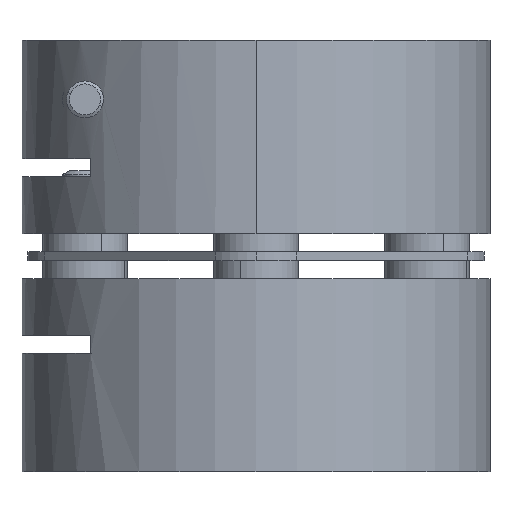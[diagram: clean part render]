
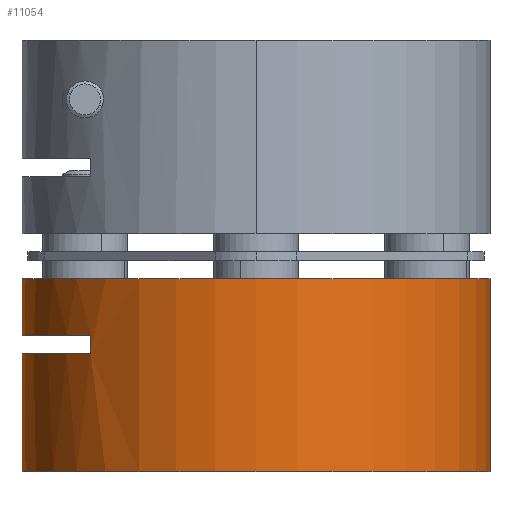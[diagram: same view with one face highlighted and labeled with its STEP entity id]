
A CAD part, left-side view. The second image highlights one B-rep face of the part: STEP entity #11054.
In plain terms, the highlighted cylindrical face has radius 13 mm (diameter 26 mm), a partial arc.
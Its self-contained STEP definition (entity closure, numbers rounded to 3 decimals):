
#37 = DIRECTION ( 'NONE',  ( 0., 0., 1. ) ) ;
#113 = VERTEX_POINT ( 'NONE', #9691 ) ;
#267 = VERTEX_POINT ( 'NONE', #3563 ) ;
#282 = CARTESIAN_POINT ( 'NONE',  ( 30.348, 30.844, 73.999 ) ) ;
#289 = AXIS2_PLACEMENT_3D ( 'NONE', #1999, #9086, #3079 ) ;
#413 = ORIENTED_EDGE ( 'NONE', *, *, #5150, .F. ) ;
#768 = ORIENTED_EDGE ( 'NONE', *, *, #4441, .F. ) ;
#951 = DIRECTION ( 'NONE',  ( 0., 0., 1. ) ) ;
#1434 = ORIENTED_EDGE ( 'NONE', *, *, #5321, .F. ) ;
#1477 = CARTESIAN_POINT ( 'NONE',  ( 30.348, 56.844, 73.999 ) ) ;
#1831 = LINE ( 'NONE', #1477, #6954 ) ;
#1986 = VECTOR ( 'NONE', #37, 1000. ) ;
#1999 = CARTESIAN_POINT ( 'NONE',  ( 30.348, 43.844, 80.599 ) ) ;
#2090 = CIRCLE ( 'NONE', #2745, 13. ) ;
#2261 = CIRCLE ( 'NONE', #12004, 13. ) ;
#2528 = DIRECTION ( 'NONE',  ( 0., 0., 1. ) ) ;
#2745 = AXIS2_PLACEMENT_3D ( 'NONE', #9803, #3871, #10767 ) ;
#2946 = VERTEX_POINT ( 'NONE', #3493 ) ;
#3079 = DIRECTION ( 'NONE',  ( 0., -1., 0. ) ) ;
#3288 = ORIENTED_EDGE ( 'NONE', *, *, #4500, .T. ) ;
#3404 = CARTESIAN_POINT ( 'NONE',  ( 30.348, 56.844, 73.999 ) ) ;
#3493 = CARTESIAN_POINT ( 'NONE',  ( 30.348, 56.844, 73.999 ) ) ;
#3563 = CARTESIAN_POINT ( 'NONE',  ( 30.348, 30.844, 84.749 ) ) ;
#3601 = CARTESIAN_POINT ( 'NONE',  ( 21.156, 53.037, 81.599 ) ) ;
#3838 = LINE ( 'NONE', #3404, #11066 ) ;
#3871 = DIRECTION ( 'NONE',  ( 0., 0., -1. ) ) ;
#4042 = CARTESIAN_POINT ( 'NONE',  ( 30.348, 43.844, 81.599 ) ) ;
#4145 = VERTEX_POINT ( 'NONE', #4526 ) ;
#4232 = EDGE_CURVE ( 'NONE', #2946, #113, #3838, .T. ) ;
#4441 = EDGE_CURVE ( 'NONE', #9332, #9592, #1831, .T. ) ;
#4500 = EDGE_CURVE ( 'NONE', #4145, #267, #4781, .T. ) ;
#4526 = CARTESIAN_POINT ( 'NONE',  ( 30.348, 30.844, 73.999 ) ) ;
#4781 = LINE ( 'NONE', #282, #1986 ) ;
#4888 = CARTESIAN_POINT ( 'NONE',  ( 30.348, 43.844, 73.999 ) ) ;
#5060 = DIRECTION ( 'NONE',  ( 0., -1., 0. ) ) ;
#5150 = EDGE_CURVE ( 'NONE', #4145, #2946, #2090, .T. ) ;
#5160 = FACE_OUTER_BOUND ( 'NONE', #9783, .T. ) ;
#5184 = EDGE_CURVE ( 'NONE', #267, #9592, #5983, .T. ) ;
#5249 = EDGE_CURVE ( 'NONE', #9332, #10806, #2261, .T. ) ;
#5261 = EDGE_CURVE ( 'NONE', #10806, #7224, #7365, .T. ) ;
#5321 = EDGE_CURVE ( 'NONE', #113, #7224, #9671, .T. ) ;
#5678 = ORIENTED_EDGE ( 'NONE', *, *, #4232, .F. ) ;
#5884 = CARTESIAN_POINT ( 'NONE',  ( 30.348, 56.844, 84.749 ) ) ;
#5983 = CIRCLE ( 'NONE', #7486, 13. ) ;
#5986 = DIRECTION ( 'NONE',  ( 0., 0., -1. ) ) ;
#6074 = CARTESIAN_POINT ( 'NONE',  ( 21.156, 53.037, 73.999 ) ) ;
#6954 = VECTOR ( 'NONE', #951, 1000. ) ;
#7042 = DIRECTION ( 'NONE',  ( 0., 0., -1. ) ) ;
#7224 = VERTEX_POINT ( 'NONE', #9611 ) ;
#7365 = LINE ( 'NONE', #6074, #12187 ) ;
#7486 = AXIS2_PLACEMENT_3D ( 'NONE', #11801, #5986, #12742 ) ;
#7525 = CARTESIAN_POINT ( 'NONE',  ( 30.348, 56.844, 81.599 ) ) ;
#8581 = ORIENTED_EDGE ( 'NONE', *, *, #5184, .T. ) ;
#8730 = AXIS2_PLACEMENT_3D ( 'NONE', #4888, #10772, #12414 ) ;
#8873 = CYLINDRICAL_SURFACE ( 'NONE', #8730, 13. ) ;
#9086 = DIRECTION ( 'NONE',  ( 0., 0., 1. ) ) ;
#9332 = VERTEX_POINT ( 'NONE', #7525 ) ;
#9592 = VERTEX_POINT ( 'NONE', #5884 ) ;
#9611 = CARTESIAN_POINT ( 'NONE',  ( 21.156, 53.037, 80.599 ) ) ;
#9671 = CIRCLE ( 'NONE', #289, 13. ) ;
#9691 = CARTESIAN_POINT ( 'NONE',  ( 30.348, 56.844, 80.599 ) ) ;
#9783 = EDGE_LOOP ( 'NONE', ( #5678, #413, #3288, #8581, #768, #11457, #11755, #1434 ) ) ;
#9803 = CARTESIAN_POINT ( 'NONE',  ( 30.348, 43.844, 73.999 ) ) ;
#10767 = DIRECTION ( 'NONE',  ( 0., 1., 0. ) ) ;
#10772 = DIRECTION ( 'NONE',  ( 0., 0., 1. ) ) ;
#10806 = VERTEX_POINT ( 'NONE', #3601 ) ;
#10939 = DIRECTION ( 'NONE',  ( 0., 0., 1. ) ) ;
#11054 = ADVANCED_FACE ( 'NONE', ( #5160 ), #8873, .T. ) ;
#11066 = VECTOR ( 'NONE', #2528, 1000. ) ;
#11457 = ORIENTED_EDGE ( 'NONE', *, *, #5249, .T. ) ;
#11755 = ORIENTED_EDGE ( 'NONE', *, *, #5261, .T. ) ;
#11801 = CARTESIAN_POINT ( 'NONE',  ( 30.348, 43.844, 84.749 ) ) ;
#12004 = AXIS2_PLACEMENT_3D ( 'NONE', #4042, #10939, #5060 ) ;
#12187 = VECTOR ( 'NONE', #7042, 1000. ) ;
#12414 = DIRECTION ( 'NONE',  ( 0., -1., 0. ) ) ;
#12742 = DIRECTION ( 'NONE',  ( 0., 1., 0. ) ) ;
